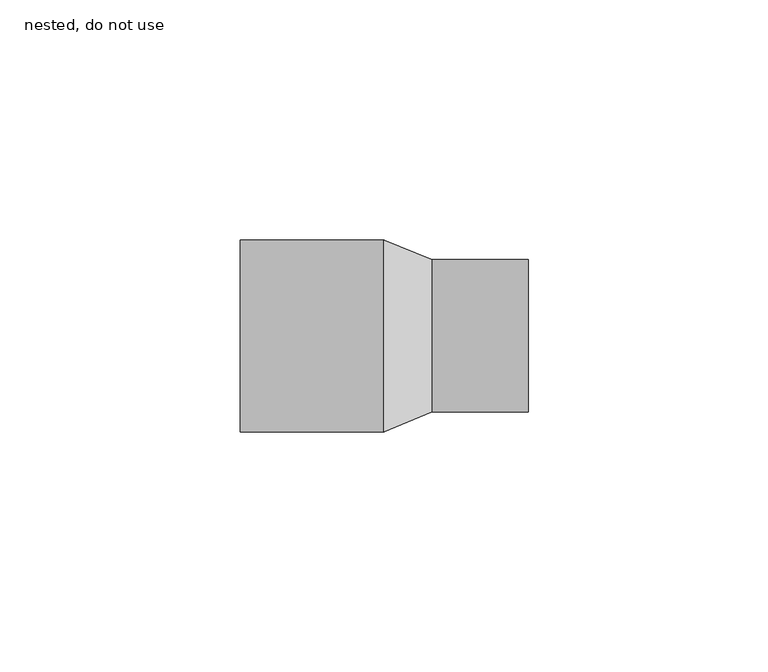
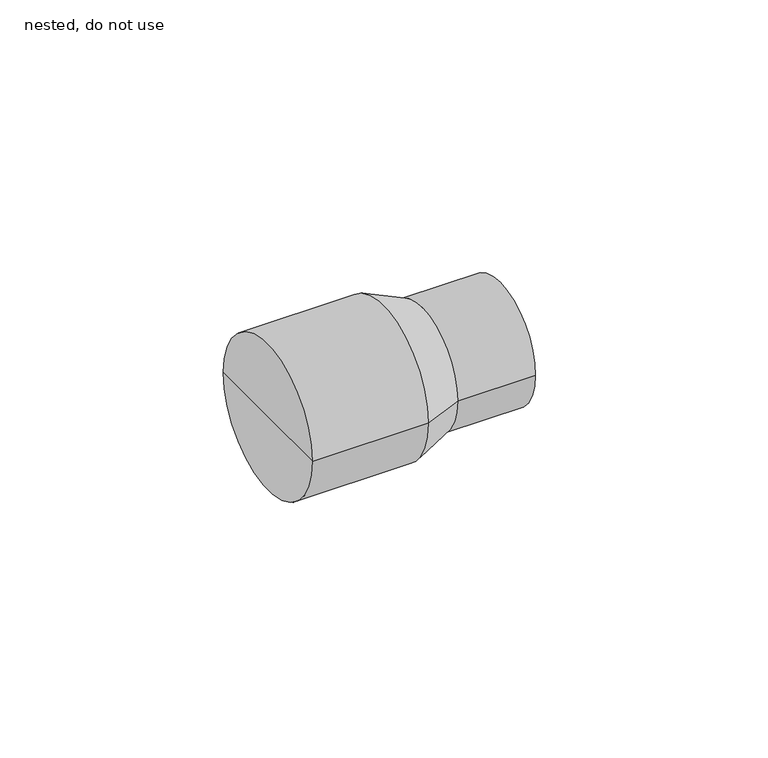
"""IFC4 building model written with IfcOpenShell, lengths in millimetres: pipe fitting geometry, ZZZ_do no use_PIF_HDPE male thread adapter -SH_Akatherm : nested, do not use."""

from ifc_helpers import new_model, si_unit, frame, origin, place, context, project, spatial, polyline, circle_curve, source, transform, mapped, element, save
from ifc_brep_helpers import plane_surface, cylinder_surface, revolved_surface, advanced_brep


def nested_do_not_use_02fd2384(model_context):
    return source(origin(), model_context, "Body", "AdvancedBrep", [
        advanced_brep(
        [(30.0, 15.875, 0.0), (30.0, 0.0, 0.0), (30.0, -15.875, 0.0), (10.0, 15.875, 0.0), (10.0, -15.875, 0.0), (0.0, 20.0, 0.0), (0.0, -20.0, 0.0), (-30.0, 20.0, 0.0), (-30.0, -20.0, 0.0), (-30.0, 0.0, 0.0)],
        [
            (0, 1),
            (1, 2),
            (2, 0, circle_curve(frame((30.0, 0.0, 0.0), z_axis=(1.0, 0.0, 0.0), x_axis=(0.0, -1.0, 0.0)), 15.875)),
            (0, 2, circle_curve(frame((30.0, 0.0, 0.0), z_axis=(1.0, 0.0, 0.0), x_axis=(0.0, -1.0, 0.0)), 15.875)),
            (3, 0),
            (2, 4),
            (4, 3, circle_curve(frame((10.0, 0.0, 0.0), z_axis=(1.0, 0.0, 0.0), x_axis=(0.0, -1.0, 0.0)), 15.875)),
            (3, 4, circle_curve(frame((10.0, 0.0, 0.0), z_axis=(1.0, 0.0, 0.0), x_axis=(0.0, -1.0, 0.0)), 15.875)),
            (5, 3),
            (4, 6),
            (6, 5, circle_curve(frame((0.0, 0.0, 0.0), z_axis=(1.0, 0.0, 0.0), x_axis=(0.0, -1.0, 0.0)), 20.0)),
            (5, 6, circle_curve(frame((0.0, 0.0, 0.0), z_axis=(1.0, 0.0, 0.0), x_axis=(0.0, -1.0, 0.0)), 20.0)),
            (7, 5),
            (6, 8),
            (8, 7, circle_curve(frame((-30.0, 0.0, 0.0), z_axis=(1.0, 0.0, 0.0), x_axis=(0.0, -1.0, 0.0)), 20.0)),
            (7, 8, circle_curve(frame((-30.0, 0.0, 0.0), z_axis=(1.0, 0.0, 0.0), x_axis=(0.0, -1.0, 0.0)), 20.0)),
            (9, 7),
            (8, 9),
        ],
        [
            plane_surface(frame((30.0, 0.0, 0.0), z_axis=(1.0, 0.0, 0.0), x_axis=(0.0, -1.0, 0.0))),
            cylinder_surface(frame((-112.5, 0.0, 0.0), z_axis=(-1.0, 0.0, 0.0), x_axis=(0.0, -1.0, 0.0)), 15.875),
            revolved_surface(polyline([(10.0, -15.875, 0.0), (0.0, -20.0, 0.0)]), (-112.5, 0.0, 0.0), (-1.0, 0.0, 0.0)),
            cylinder_surface(frame((-112.5, 0.0, 0.0), z_axis=(-1.0, 0.0, 0.0), x_axis=(0.0, -1.0, 0.0)), 20.0),
            plane_surface(frame((-30.0, 0.0, 0.0), z_axis=(-1.0, 0.0, 0.0), x_axis=(0.0, -1.0, 0.0))),
        ],
        [
            (0, [[1, 2, 3]]),
            (0, [[-2, -1, 4]]),
            (1, [[5, -3, 6, 7]]),
            (1, [[-6, -4, -5, 8]]),
            (2, [[9, -7, 10, 11]]),
            (2, [[-10, -8, -9, 12]]),
            (3, [[13, -11, 14, 15]]),
            (3, [[-14, -12, -13, 16]]),
            (4, [[17, -15, 18]]),
            (4, [[-18, -16, -17]]),
        ],
    ),
    ])


if __name__ == "__main__":
    model = new_model("IFC4")
    model_context = context("Model", 3, world=origin())
    ifc_project = project(units=[si_unit("LENGTHUNIT", "METRE", prefix="MILLI")], contexts=[model_context])
    site = spatial("IfcSite", under=ifc_project)
    building = spatial("IfcBuilding", under=site)
    placement = place(None, origin())
    nested_do_not_use_shape = nested_do_not_use_02fd2384(model_context)
    element("IfcPipeFitting", 1, ObjectType="ZZZ_do no use_PIF_HDPE male thread adapter -SH_Akatherm : nested, do not use", at=placement, inside=building, context=model_context, shape_type="MappedRepresentation", body=[
        mapped(nested_do_not_use_shape, transform((0.0, 0.0, 0.0), x_axis=(1.0, 0.0, 0.0), y_axis=(0.0, 1.0, 0.0), z_axis=(0.0, 0.0, 1.0))),
    ])
    save(model, "model.ifc")
